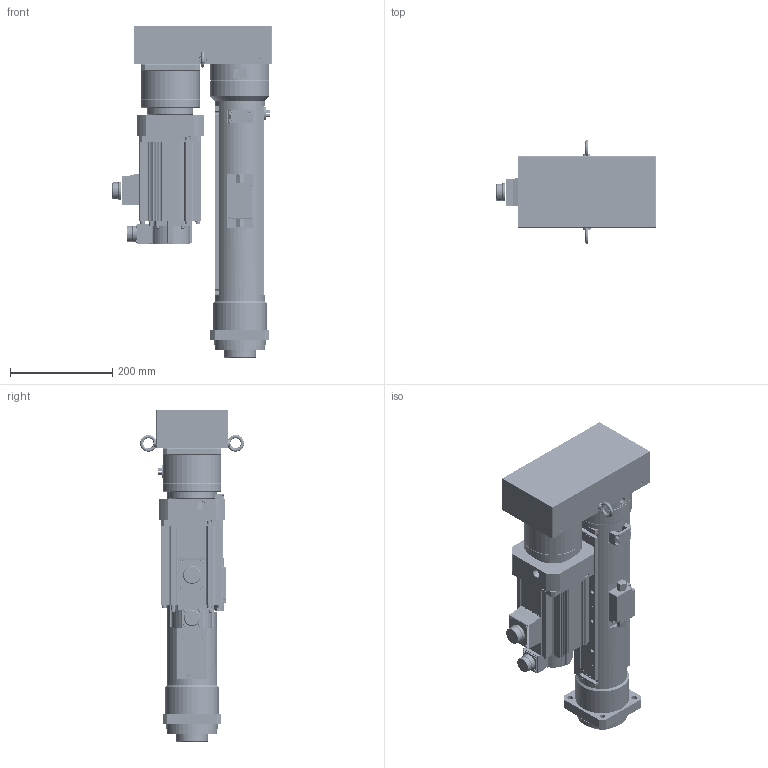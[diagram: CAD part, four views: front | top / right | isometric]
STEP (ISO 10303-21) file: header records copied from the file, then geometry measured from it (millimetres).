
FILE_DESCRIPTION( ('This file contains a STEP AP42 implementation' ,'as created by ZW3D STEP Interface translator.') ,'2;1' );
FILE_NAME( 'OACIS-DC-P025-P030-300-200-A6V200_20.51.stp' ,'26 416.14 729', (''), ('ZWCAD Software Co.'), 'Version 1.0', 'ZW3D to STEP translator', '' );
FILE_SCHEMA(('AUTOMOTIVE_DESIGN { 1 0 10303 214 1 1 1 1 }'));
Length unit declared in the file: millimetre
Products named in the file (1): 0
Bounding box: 311 x 202.6 x 648 mm (x, y, z)
Volume: 6781193.9 mm3; surface area: 1554328.8 mm2
Topology: 50 solids, 55 shells, 3199 faces, 8183 edges, 5350 vertices
Faces by surface type: cylinder 1509, plane 1220, cone 339, torus 100, sphere 21, bspline 10
Full cylindrical faces by diameter (mm): 1.6 x8, 2.459 x5, 2.75 x4, 3.2 x5, 3.242 x10, 3.3 x94, 4 x8, 4.134 x14, 4.2 x4, 4.3 x30, 4.5 x4, 5 x34, 5.5 x4, 5.6 x5, 6.6 x14, 6.647 x4, 6.8 x42, 7 x12, 8 x38, 8.4 x8, 8.5 x35, 9 x8, 9.5 x4, 10 x8, 10.106 x1, 11 x12, 12 x1, 15 x8, 15.5 x2, 16.5 x2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
Entity records: 106795 total; most frequent: CARTESIAN_POINT 21474, DIRECTION 18266, ORIENTED_EDGE 16140, EDGE_CURVE 8078, AXIS2_PLACEMENT_3D 7238, VERTEX_POINT 5285, CIRCLE 4025, EDGE_LOOP 3834
